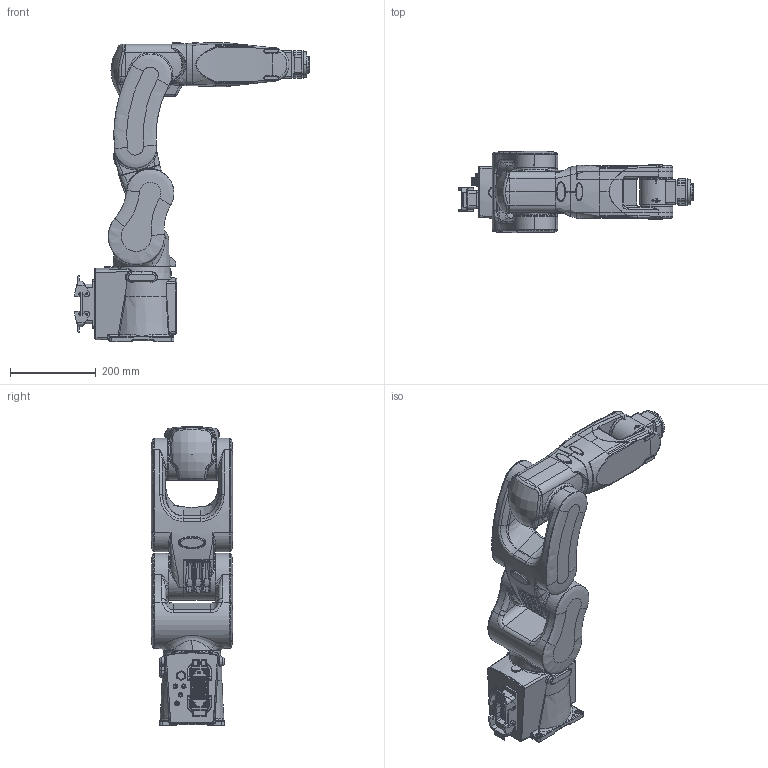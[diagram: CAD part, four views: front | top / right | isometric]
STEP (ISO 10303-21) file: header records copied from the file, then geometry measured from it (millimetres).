
FILE_DESCRIPTION (( 'STEP AP203' ), '1' );
FILE_NAME ('HH4 TOTAL.STEP', '2021-02-17T02:42:22', ( 'fulluser' ), ( '' ), 'SwSTEP 2.0', 'SolidWorks 2020', '' );
FILE_SCHEMA (( 'CONFIG_CONTROL_DESIGN' ));
Length unit declared in the file: millimetre
Products named in the file (8): LOWER FRAME2; arm pipe; BASE BODAY1; wrist holder1; HH4 TOTAL; flange; upper frame1; arm frame1
Assembly tree (7 placements, depth 2):
  HH4 TOTAL
    BASE BODAY1
    LOWER FRAME2
    upper frame1
    arm pipe
    wrist holder1
    arm frame1
    flange
Bounding box: 548.1 x 190 x 699.5 mm (x, y, z)
Volume: 11747704.4 mm3; surface area: 1307572.1 mm2
Topology: 19 solids, 43 shells, 3965 faces, 9830 edges, 6273 vertices
Faces by surface type: plane 1631, cylinder 1545, bspline 494, cone 167, torus 102, sphere 26
Entity records: 159260 total; most frequent: CARTESIAN_POINT 66939, ORIENTED_EDGE 19560, DIRECTION 18377, EDGE_CURVE 9784, AXIS2_PLACEMENT_3D 7003, VERTEX_POINT 6273, EDGE_LOOP 4581, LINE 4371
